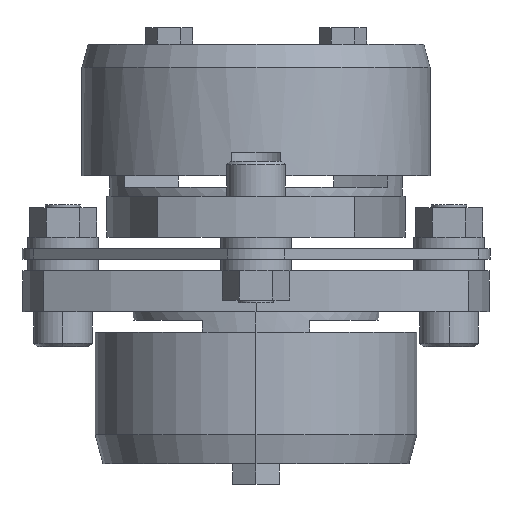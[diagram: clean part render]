
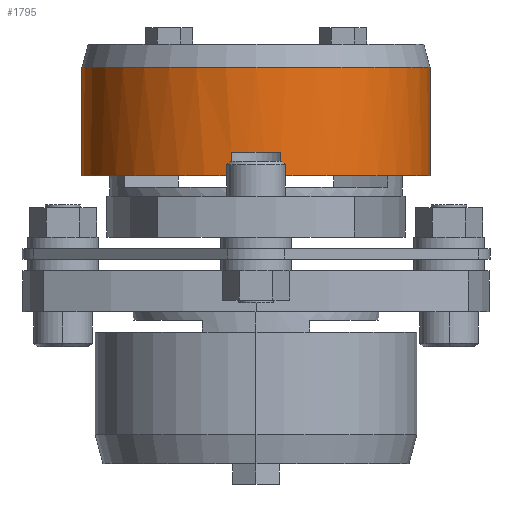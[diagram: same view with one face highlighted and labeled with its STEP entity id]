
A CAD part, front view. The second image highlights one B-rep face of the part: STEP entity #1795.
In plain terms, the highlighted cylindrical face has radius 29.75 mm (diameter 59.5 mm), a partial arc.
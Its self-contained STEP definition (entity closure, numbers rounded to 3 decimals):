
#1619=CARTESIAN_POINT('',(29.75,0.,31.875));
#1620=VERTEX_POINT('',#1619);
#1636=CARTESIAN_POINT('',(-29.75,0.,31.875));
#1637=VERTEX_POINT('',#1636);
#1644=CARTESIAN_POINT('',(0.,0.,31.875));
#1645=DIRECTION('',(0.0,0.0,1.0));
#1646=DIRECTION('',(1.0,0.0,0.0));
#1647=AXIS2_PLACEMENT_3D('',#1644,#1645,#1646);
#1648=CIRCLE('',#1647,29.75);
#1649=EDGE_CURVE('',#1637,#1620,#1648,.T.);
#1730=CARTESIAN_POINT('',(0.,0.,13.375));
#1731=DIRECTION('',(0.0,0.0,1.0));
#1732=DIRECTION('',(-1.0,0.0,0.0));
#1733=AXIS2_PLACEMENT_3D('',#1730,#1731,#1732);
#1734=CYLINDRICAL_SURFACE('',#1733,29.75);
#1735=CARTESIAN_POINT('',(-29.75,0.,13.375));
#1736=VERTEX_POINT('',#1735);
#1737=CARTESIAN_POINT('',(-29.75,0.,13.375));
#1738=DIRECTION('',(0.0,0.0,1.0));
#1739=VECTOR('',#1738,18.5);
#1740=LINE('',#1737,#1739);
#1741=EDGE_CURVE('',#1736,#1637,#1740,.T.);
#1742=ORIENTED_EDGE('',*,*,#1741,.F.);
#1743=CARTESIAN_POINT('',(-4.202,-29.452,13.375));
#1744=VERTEX_POINT('',#1743);
#1745=CARTESIAN_POINT('',(0.,0.,13.375));
#1746=DIRECTION('',(0.0,0.0,1.0));
#1747=DIRECTION('',(-1.0,0.0,0.0));
#1748=AXIS2_PLACEMENT_3D('',#1745,#1746,#1747);
#1749=CIRCLE('',#1748,29.75);
#1750=EDGE_CURVE('',#1736,#1744,#1749,.T.);
#1751=ORIENTED_EDGE('',*,*,#1750,.T.);
#1752=CARTESIAN_POINT('',(-4.202,-29.452,17.375));
#1753=VERTEX_POINT('',#1752);
#1754=CARTESIAN_POINT('',(-4.202,-29.452,13.375));
#1755=DIRECTION('',(0.0,0.0,1.0));
#1756=VECTOR('',#1755,4.0);
#1757=LINE('',#1754,#1756);
#1758=EDGE_CURVE('',#1744,#1753,#1757,.T.);
#1759=ORIENTED_EDGE('',*,*,#1758,.T.);
#1760=CARTESIAN_POINT('',(4.202,-29.452,17.375));
#1761=VERTEX_POINT('',#1760);
#1762=CARTESIAN_POINT('',(0.,0.,17.375));
#1763=DIRECTION('',(0.0,0.0,1.0));
#1764=DIRECTION('',(-1.0,0.0,0.0));
#1765=AXIS2_PLACEMENT_3D('',#1762,#1763,#1764);
#1766=CIRCLE('',#1765,29.75);
#1767=EDGE_CURVE('',#1753,#1761,#1766,.T.);
#1768=ORIENTED_EDGE('',*,*,#1767,.T.);
#1769=CARTESIAN_POINT('',(4.202,-29.452,13.375));
#1770=VERTEX_POINT('',#1769);
#1771=CARTESIAN_POINT('',(4.202,-29.452,17.375));
#1772=DIRECTION('',(0.0,0.0,-1.0));
#1773=VECTOR('',#1772,4.0);
#1774=LINE('',#1771,#1773);
#1775=EDGE_CURVE('',#1761,#1770,#1774,.T.);
#1776=ORIENTED_EDGE('',*,*,#1775,.T.);
#1777=CARTESIAN_POINT('',(29.75,0.,13.375));
#1778=VERTEX_POINT('',#1777);
#1779=CARTESIAN_POINT('',(0.,0.,13.375));
#1780=DIRECTION('',(0.0,0.0,1.0));
#1781=DIRECTION('',(-1.0,0.0,0.0));
#1782=AXIS2_PLACEMENT_3D('',#1779,#1780,#1781);
#1783=CIRCLE('',#1782,29.75);
#1784=EDGE_CURVE('',#1770,#1778,#1783,.T.);
#1785=ORIENTED_EDGE('',*,*,#1784,.T.);
#1786=CARTESIAN_POINT('',(29.75,0.,31.875));
#1787=DIRECTION('',(0.0,0.0,-1.0));
#1788=VECTOR('',#1787,18.5);
#1789=LINE('',#1786,#1788);
#1790=EDGE_CURVE('',#1620,#1778,#1789,.T.);
#1791=ORIENTED_EDGE('',*,*,#1790,.F.);
#1792=ORIENTED_EDGE('',*,*,#1649,.F.);
#1793=EDGE_LOOP('',(#1742,#1751,#1759,#1768,#1776,#1785,#1791,#1792));
#1794=FACE_OUTER_BOUND('',#1793,.T.);
#1795=ADVANCED_FACE('',(#1794),#1734,.T.);
